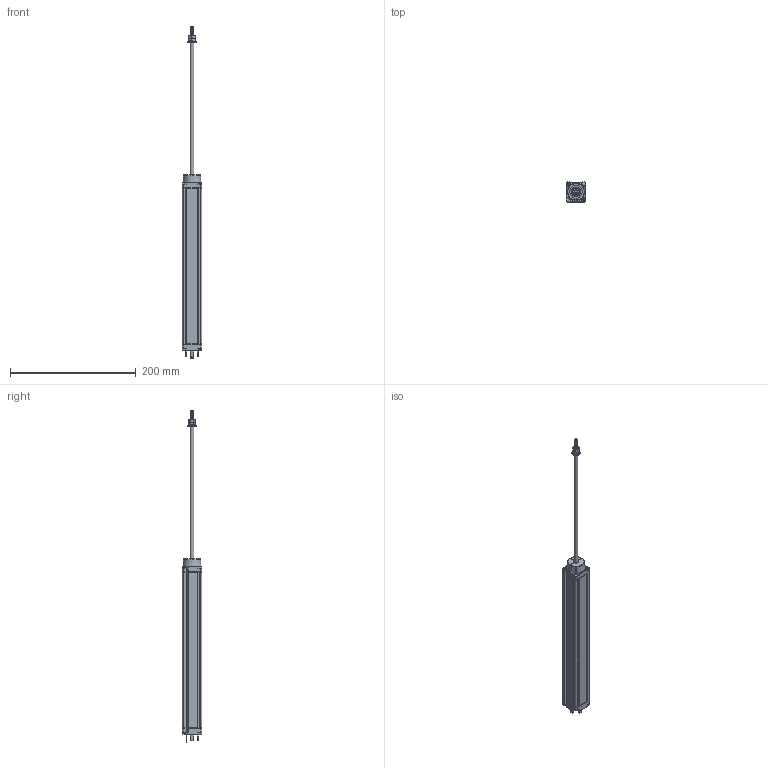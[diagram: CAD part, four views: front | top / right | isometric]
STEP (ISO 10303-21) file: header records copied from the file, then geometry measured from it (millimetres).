
FILE_DESCRIPTION(/* description */ (''),/* implementation_level */ '2;1');
FILE_NAME(/* name */ '',/* time_stamp */ '2019-10-29T15:27:36+08:00',/* author */ (''),/* organization */ (''),/* preprocessor_version */ 'ST-DEVELOPER v14',/* originating_system */ 'SIEMENS PLM Software NX 8.0',/* authorisation */ '');
FILE_SCHEMA (('AP203_CONFIGURATION_CONTROLLED_3D_DESIGN_OF_MECHANICAL_PARTS_AND_ASSEMBLIES_MIM_LF { 1 0 10303 403 2 1 2}'));
Length unit declared in the file: millimetre
Products named in the file (1): Admi18947F31k2p1
Bounding box: 31.8 x 31.8 x 528.45 mm (x, y, z)
Volume: 96252.4 mm3; surface area: 101696.2 mm2
Topology: 16 solids, 16 shells, 796 faces, 2128 edges, 1364 vertices
Faces by surface type: plane 476, cylinder 247, torus 29, sphere 20, cone 15, bspline 9
Full cylindrical faces by diameter (mm): 2.5 x6, 2.525 x2, 3 x4, 3.2 x1, 3.5 x4, 3.7 x2, 4 x1, 4.9 x22, 5.9 x4, 6 x1, 7.986 x1, 9.986 x1, 10 x1, 14.973 x1, 16.471 x1
Entity records: 34329 total; most frequent: CARTESIAN_POINT 15225, ORIENTED_EDGE 3940, DIRECTION 3855, EDGE_CURVE 1970, LINE 1373, VECTOR 1373, VERTEX_POINT 1298, AXIS2_PLACEMENT_3D 1241
